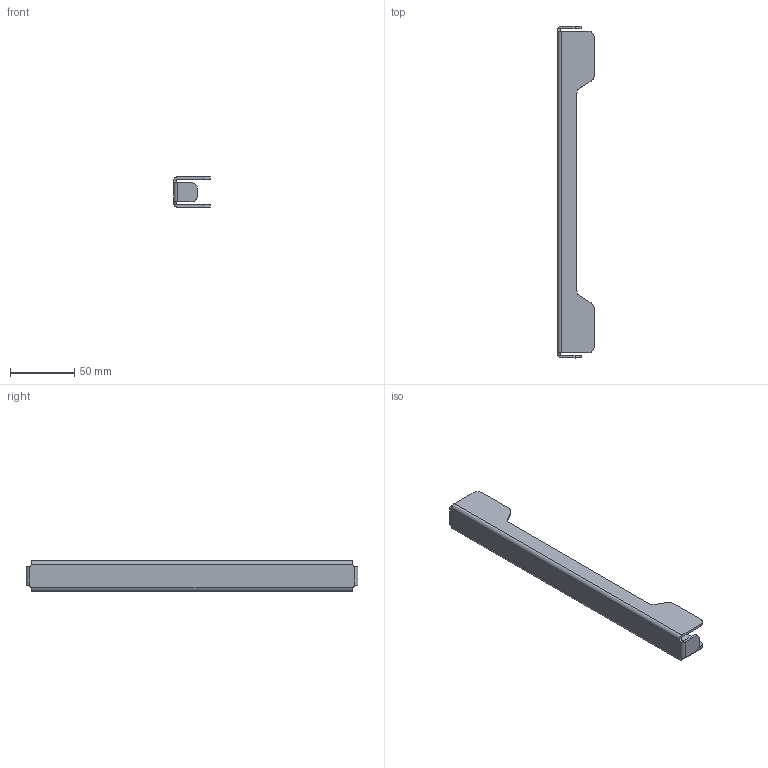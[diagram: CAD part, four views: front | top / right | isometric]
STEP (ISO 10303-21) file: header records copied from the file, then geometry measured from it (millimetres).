
FILE_DESCRIPTION(('CATIA V5 STEP Exchange'),'2;1');
FILE_NAME('D:\杨逍（新）\06-李燕龙\2023.1.9-G3新开件2D图纸-李燕龙\钣金单件图纸\SHT0015275-前连接框\SHT0015275.stp','2023-01-11T06:25:44+00:00',('none'),('none'),'CATIA Version 5 Release 20 GA (IN-10)','CATIA V5 STEP AP214','none');
FILE_SCHEMA(('AUTOMOTIVE_DESIGN { 1 0 10303 214 1 1 1 1 }'));
Length unit declared in the file: millimetre
Products named in the file (1): Part60
Bounding box: 28.53 x 258.99 x 23.7 mm (x, y, z)
Volume: 29678.7 mm3; surface area: 31152.3 mm2
Topology: 1 solids, 1 shells, 58 faces, 166 edges, 110 vertices
Faces by surface type: plane 30, cylinder 28
Entity records: 1850 total; most frequent: CARTESIAN_POINT 404, ORIENTED_EDGE 332, DIRECTION 234, EDGE_CURVE 166, VERTEX_POINT 110, VECTOR 96, LINE 96, AXIS2_PLACEMENT_3D 95
